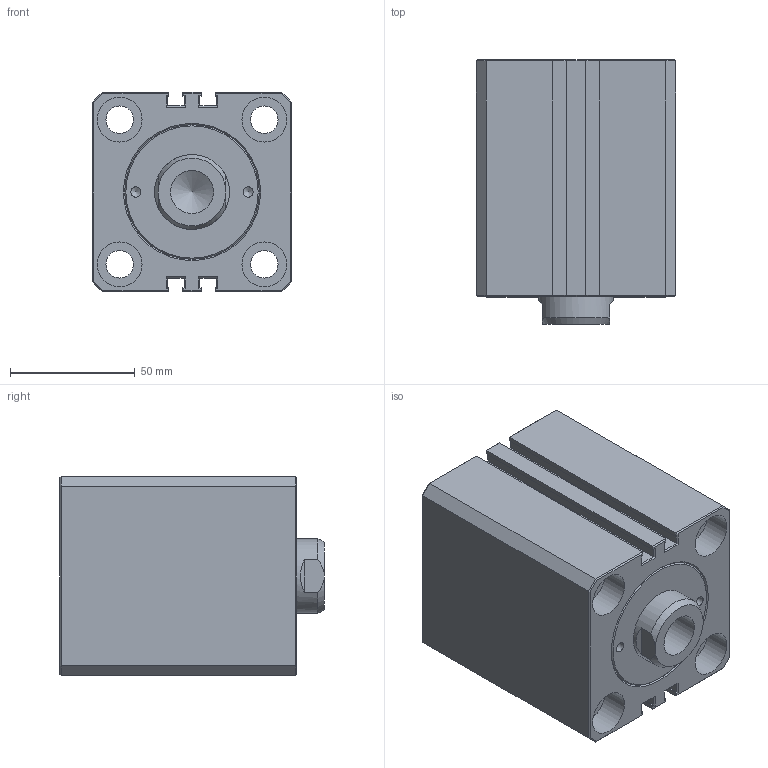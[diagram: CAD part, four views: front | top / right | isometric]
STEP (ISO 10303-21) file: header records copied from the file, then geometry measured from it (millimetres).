
FILE_DESCRIPTION(/* description */ ('Unknown'),/* implementation_level */ '2;1');
FILE_NAME(/* name */ 'HTM140-SD50X20N',/* time_stamp */ '2022-09-01T01:31:39+08:00',/* author */ ('Unknown'),/* organization */ ('Unknown'),/* preprocessor_version */ 'ST-DEVELOPER v16.7',/* originating_system */ 'DEX',/* authorisation */ $);
FILE_SCHEMA (('AUTOMOTIVE_DESIGN {1 0 10303 214 3 1 1}'));
Length unit declared in the file: millimetre
Products named in the file (1): HTM140-SD50X20N
Bounding box: 80 x 106 x 80 mm (x, y, z)
Volume: 539152.4 mm3; surface area: 64757.5 mm2
Topology: 1 solids, 1 shells, 187 faces, 428 edges, 257 vertices
Faces by surface type: plane 140, cylinder 19, cone 16, bspline 12
Full cylindrical faces by diameter (mm): 4.1 x2, 6 x1, 11 x4, 12.301 x2, 17.294 x1, 18 x8, 30 x1
Entity records: 6353 total; most frequent: CARTESIAN_POINT 1061, ORIENTED_EDGE 778, DIRECTION 768, EDGE_CURVE 389, LINE 294, VECTOR 294, VERTEX_POINT 248, FACE_BOUND 239
